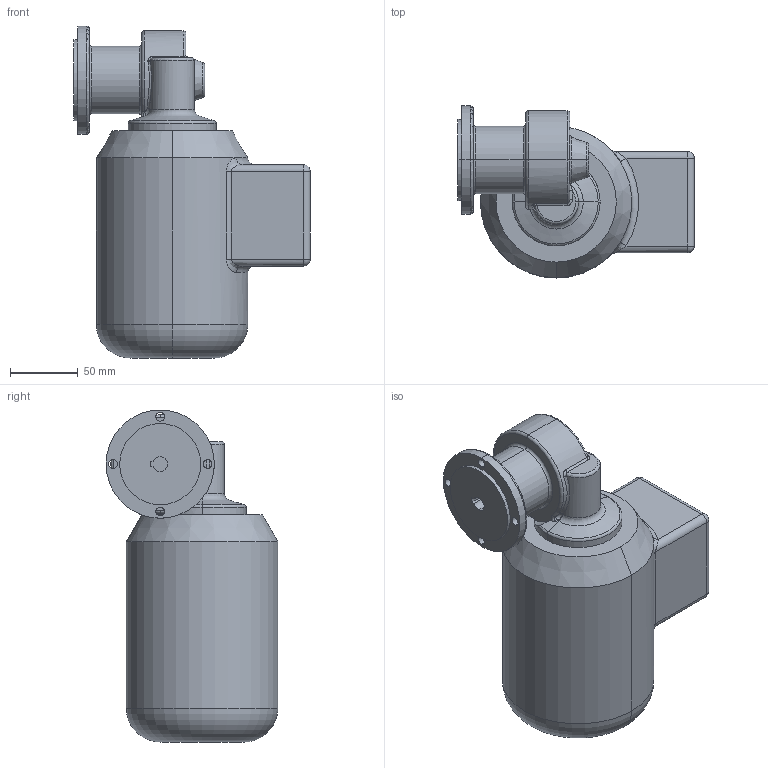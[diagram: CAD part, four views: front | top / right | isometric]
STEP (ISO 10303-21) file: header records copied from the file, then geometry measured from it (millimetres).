
FILE_DESCRIPTION (( 'STEP AP203' ), '1' );
FILE_NAME ('SN5FLH-90,120W-B.STEP', '2008-02-22T13:55:54', ( ' ' ), ( ' ' ), 'SwSTEP 2.0', 'SolidWorks 2006233', '' );
FILE_SCHEMA (( 'CONFIG_CONTROL_DESIGN' ));
Length unit declared in the file: millimetre
Products named in the file (3): SN5FLH-90,120W-B; BG56of_Standard; SN5FLH_Standard
Assembly tree (2 placements, depth 2):
  SN5FLH-90,120W-B
    SN5FLH_Standard
    BG56of_Standard
Bounding box: 174.7 x 127 x 245.5 mm (x, y, z)
Volume: 2171376.5 mm3; surface area: 124608.6 mm2
Topology: 2 solids, 2 shells, 112 faces, 268 edges, 156 vertices
Faces by surface type: cylinder 39, torus 28, plane 19, bspline 15, cone 7, sphere 4
Entity records: 4715 total; most frequent: CARTESIAN_POINT 1870, DIRECTION 569, ORIENTED_EDGE 528, EDGE_CURVE 264, AXIS2_PLACEMENT_3D 251, VERTEX_POINT 156, CIRCLE 149, EDGE_LOOP 120
